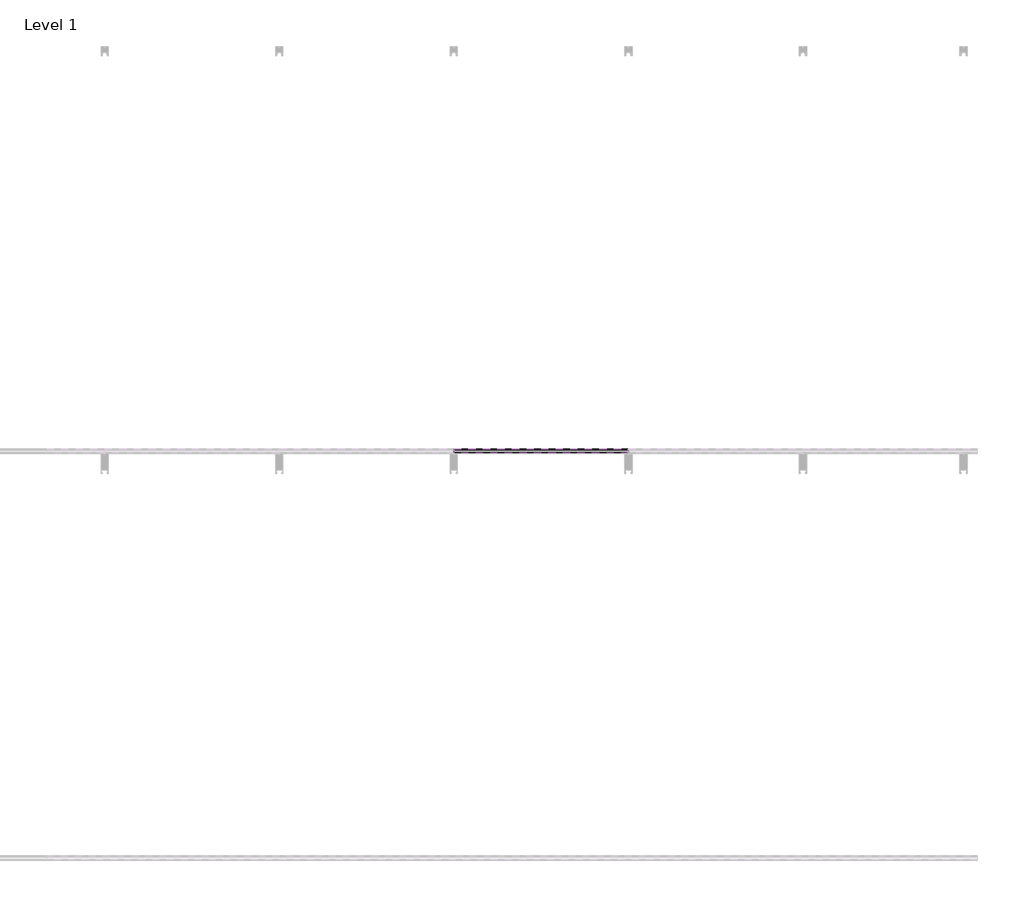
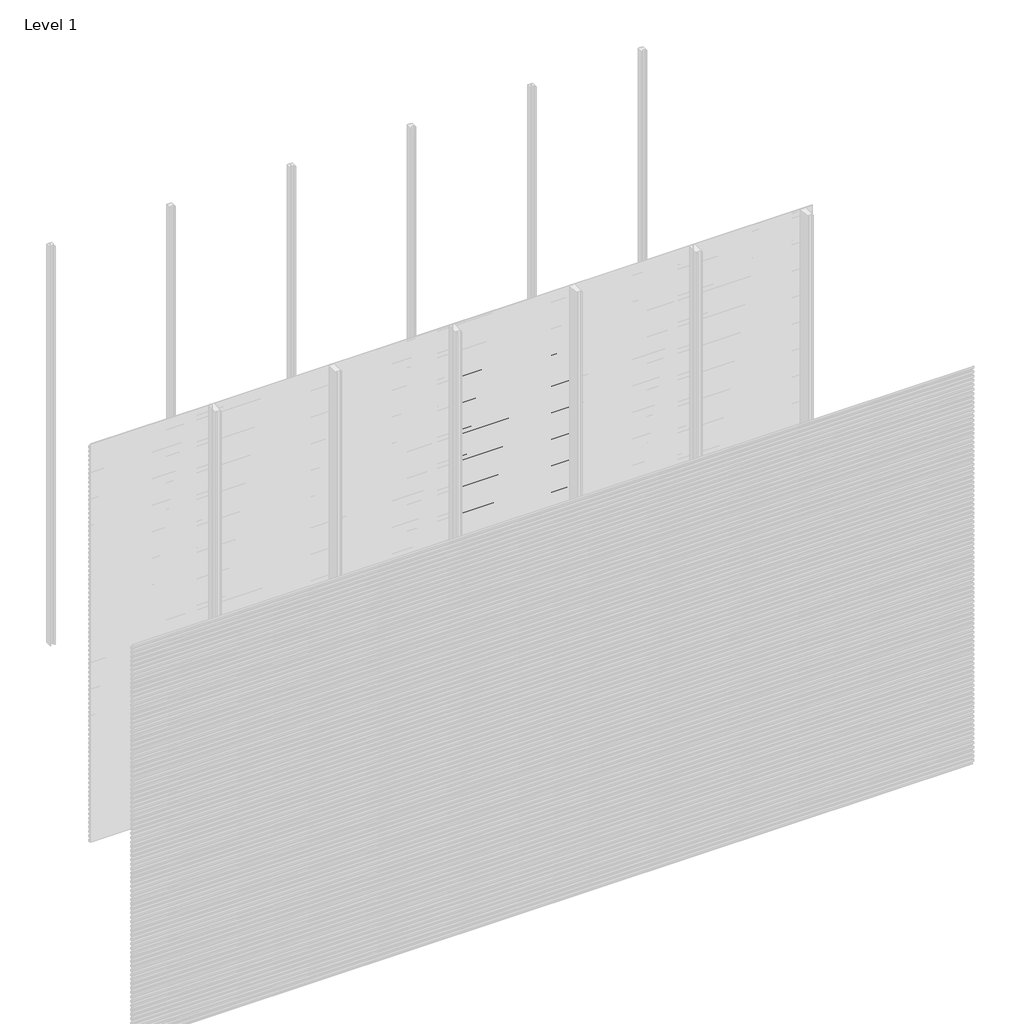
# One storey, part 66 of 96: 77 proxies.
"""IFC4 building model written with IfcOpenShell, lengths in millimetres."""

from ifc_helpers import new_model, si_unit, frame, origin, place, context, project, spatial, polyline, outline, extrude, element, save

model = new_model("IFC4")

# Units and contexts
model_context = context("Model", 3, world=origin())
ifc_project = project(units=[si_unit("LENGTHUNIT", "METRE", prefix="MILLI")], contexts=[model_context])

# Site, building, storey
site = spatial("IfcSite", under=ifc_project)
building = spatial("IfcBuilding", under=site)
storey = spatial("IfcBuildingStorey", under=building, Name="Level 1", Elevation=0.0)

# Proxies
placement = place(None, origin())
element("IfcBuildingElementProxy", 1, Name="Wall Sweeps", at=placement, inside=storey, context=model_context, shape_type="SweptSolid", body=[
    extrude(outline(polyline([(-17977.6, 2672.0655033), (-17977.6, 2657.7779188), (-17982.4114965, 2655.0), (-17982.4114965, 2656.2701706), (-17978.85, 2658.3264016), (-17978.85, 2671.3437382), (-17998.0, 2682.4000799), (-17998.0, 2697.3), (-17996.75, 2697.3), (-17996.75, 2683.1217609), (-17977.6, 2672.0655033)])), frame((3428.5714286, 0.0, 0.0), z_axis=(1.0, 0.0, 0.0), x_axis=(0.0, 1.0, 0.0)), (0.0, 0.0, 1.0), 857.1428571),
])
element("IfcBuildingElementProxy", 2, Name="Wall Sweeps", at=placement, inside=storey, context=model_context, shape_type="SweptSolid", body=[
    extrude(outline(polyline([(-17977.6, 2638.7655033), (-17977.6, 2624.4779188), (-17982.4114965, 2621.7), (-17982.4114965, 2622.9701706), (-17978.85, 2625.0264016), (-17978.85, 2638.0437382), (-17998.0, 2649.1000799), (-17998.0, 2664.0), (-17996.75, 2664.0), (-17996.75, 2649.8217609), (-17977.6, 2638.7655033)])), frame((3428.5714286, 0.0, 0.0), z_axis=(1.0, 0.0, 0.0), x_axis=(0.0, 1.0, 0.0)), (0.0, 0.0, 1.0), 857.1428571),
])
element("IfcBuildingElementProxy", 3, Name="Wall Sweeps", at=placement, inside=storey, context=model_context, shape_type="SweptSolid", body=[
    extrude(outline(polyline([(-17977.6, 2605.4655033), (-17977.6, 2591.1779188), (-17982.4114965, 2588.4), (-17982.4114965, 2589.6701706), (-17978.85, 2591.7264016), (-17978.85, 2604.7437382), (-17998.0, 2615.8000799), (-17998.0, 2630.7), (-17996.75, 2630.7), (-17996.75, 2616.5217609), (-17977.6, 2605.4655033)])), frame((3428.5714286, 0.0, 0.0), z_axis=(1.0, 0.0, 0.0), x_axis=(0.0, 1.0, 0.0)), (0.0, 0.0, 1.0), 857.1428571),
])
element("IfcBuildingElementProxy", 4, Name="Wall Sweeps", at=placement, inside=storey, context=model_context, shape_type="SweptSolid", body=[
    extrude(outline(polyline([(-17977.6, 2572.1655033), (-17977.6, 2557.8779188), (-17982.4114965, 2555.1), (-17982.4114965, 2556.3701706), (-17978.85, 2558.4264016), (-17978.85, 2571.4437382), (-17998.0, 2582.5000799), (-17998.0, 2597.4), (-17996.75, 2597.4), (-17996.75, 2583.2217609), (-17977.6, 2572.1655033)])), frame((3428.5714286, 0.0, 0.0), z_axis=(1.0, 0.0, 0.0), x_axis=(0.0, 1.0, 0.0)), (0.0, 0.0, 1.0), 857.1428571),
])
element("IfcBuildingElementProxy", 5, Name="Wall Sweeps", at=placement, inside=storey, context=model_context, shape_type="SweptSolid", body=[
    extrude(outline(polyline([(-17977.6, 2538.8655033), (-17977.6, 2524.5779188), (-17982.4114965, 2521.8), (-17982.4114965, 2523.0701706), (-17978.85, 2525.1264016), (-17978.85, 2538.1437382), (-17998.0, 2549.2000799), (-17998.0, 2564.1), (-17996.75, 2564.1), (-17996.75, 2549.9217609), (-17977.6, 2538.8655033)])), frame((3428.5714286, 0.0, 0.0), z_axis=(1.0, 0.0, 0.0), x_axis=(0.0, 1.0, 0.0)), (0.0, 0.0, 1.0), 857.1428571),
])
element("IfcBuildingElementProxy", 6, Name="Wall Sweeps", at=placement, inside=storey, context=model_context, shape_type="SweptSolid", body=[
    extrude(outline(polyline([(-17977.6, 2505.5655033), (-17977.6, 2491.2779188), (-17982.4114965, 2488.5), (-17982.4114965, 2489.7701706), (-17978.85, 2491.8264016), (-17978.85, 2504.8437382), (-17998.0, 2515.9000799), (-17998.0, 2530.8), (-17996.75, 2530.8), (-17996.75, 2516.6217609), (-17977.6, 2505.5655033)])), frame((3428.5714286, 0.0, 0.0), z_axis=(1.0, 0.0, 0.0), x_axis=(0.0, 1.0, 0.0)), (0.0, 0.0, 1.0), 857.1428571),
])
element("IfcBuildingElementProxy", 7, Name="Wall Sweeps", at=placement, inside=storey, context=model_context, shape_type="SweptSolid", body=[
    extrude(outline(polyline([(-17977.6, 2472.2655033), (-17977.6, 2457.9779188), (-17982.4114965, 2455.2), (-17982.4114965, 2456.4701706), (-17978.85, 2458.5264016), (-17978.85, 2471.5437382), (-17998.0, 2482.6000799), (-17998.0, 2497.5), (-17996.75, 2497.5), (-17996.75, 2483.3217609), (-17977.6, 2472.2655033)])), frame((3428.5714286, 0.0, 0.0), z_axis=(1.0, 0.0, 0.0), x_axis=(0.0, 1.0, 0.0)), (0.0, 0.0, 1.0), 857.1428571),
])
element("IfcBuildingElementProxy", 8, Name="Wall Sweeps", at=placement, inside=storey, context=model_context, shape_type="SweptSolid", body=[
    extrude(outline(polyline([(-17977.6, 2438.9655033), (-17977.6, 2424.6779188), (-17982.4114965, 2421.9), (-17982.4114965, 2423.1701706), (-17978.85, 2425.2264016), (-17978.85, 2438.2437382), (-17998.0, 2449.3000799), (-17998.0, 2464.2), (-17996.75, 2464.2), (-17996.75, 2450.0217609), (-17977.6, 2438.9655033)])), frame((3428.5714286, 0.0, 0.0), z_axis=(1.0, 0.0, 0.0), x_axis=(0.0, 1.0, 0.0)), (0.0, 0.0, 1.0), 857.1428571),
])
element("IfcBuildingElementProxy", 9, Name="Wall Sweeps", at=placement, inside=storey, context=model_context, shape_type="SweptSolid", body=[
    extrude(outline(polyline([(-17977.6, 2405.6655033), (-17977.6, 2391.3779188), (-17982.4114965, 2388.6), (-17982.4114965, 2389.8701706), (-17978.85, 2391.9264016), (-17978.85, 2404.9437382), (-17998.0, 2416.0000799), (-17998.0, 2430.9), (-17996.75, 2430.9), (-17996.75, 2416.7217609), (-17977.6, 2405.6655033)])), frame((3428.5714286, 0.0, 0.0), z_axis=(1.0, 0.0, 0.0), x_axis=(0.0, 1.0, 0.0)), (0.0, 0.0, 1.0), 857.1428571),
])
element("IfcBuildingElementProxy", 10, Name="Wall Sweeps", at=placement, inside=storey, context=model_context, shape_type="SweptSolid", body=[
    extrude(outline(polyline([(-17977.6, 2372.3655033), (-17977.6, 2358.0779188), (-17982.4114965, 2355.3), (-17982.4114965, 2356.5701706), (-17978.85, 2358.6264016), (-17978.85, 2371.6437382), (-17998.0, 2382.7000799), (-17998.0, 2397.6), (-17996.75, 2397.6), (-17996.75, 2383.4217609), (-17977.6, 2372.3655033)])), frame((3428.5714286, 0.0, 0.0), z_axis=(1.0, 0.0, 0.0), x_axis=(0.0, 1.0, 0.0)), (0.0, 0.0, 1.0), 857.1428571),
])
element("IfcBuildingElementProxy", 11, Name="Wall Sweeps", at=placement, inside=storey, context=model_context, shape_type="SweptSolid", body=[
    extrude(outline(polyline([(-17977.6, 2339.0655033), (-17977.6, 2324.7779188), (-17982.4114965, 2322.0), (-17982.4114965, 2323.2701706), (-17978.85, 2325.3264016), (-17978.85, 2338.3437382), (-17998.0, 2349.4000799), (-17998.0, 2364.3), (-17996.75, 2364.3), (-17996.75, 2350.1217609), (-17977.6, 2339.0655033)])), frame((3428.5714286, 0.0, 0.0), z_axis=(1.0, 0.0, 0.0), x_axis=(0.0, 1.0, 0.0)), (0.0, 0.0, 1.0), 857.1428571),
])
element("IfcBuildingElementProxy", 12, Name="Wall Sweeps", at=placement, inside=storey, context=model_context, shape_type="SweptSolid", body=[
    extrude(outline(polyline([(-17977.6, 2305.7655033), (-17977.6, 2291.4779188), (-17982.4114965, 2288.7), (-17982.4114965, 2289.9701706), (-17978.85, 2292.0264016), (-17978.85, 2305.0437382), (-17998.0, 2316.1000799), (-17998.0, 2331.0), (-17996.75, 2331.0), (-17996.75, 2316.8217609), (-17977.6, 2305.7655033)])), frame((3428.5714286, 0.0, 0.0), z_axis=(1.0, 0.0, 0.0), x_axis=(0.0, 1.0, 0.0)), (0.0, 0.0, 1.0), 857.1428571),
])
element("IfcBuildingElementProxy", 13, Name="Wall Sweeps", at=placement, inside=storey, context=model_context, shape_type="SweptSolid", body=[
    extrude(outline(polyline([(-17977.6, 2272.4655033), (-17977.6, 2258.1779188), (-17982.4114965, 2255.4), (-17982.4114965, 2256.6701706), (-17978.85, 2258.7264016), (-17978.85, 2271.7437382), (-17998.0, 2282.8000799), (-17998.0, 2297.7), (-17996.75, 2297.7), (-17996.75, 2283.5217609), (-17977.6, 2272.4655033)])), frame((3428.5714286, 0.0, 0.0), z_axis=(1.0, 0.0, 0.0), x_axis=(0.0, 1.0, 0.0)), (0.0, 0.0, 1.0), 857.1428571),
])
element("IfcBuildingElementProxy", 14, Name="Wall Sweeps", at=placement, inside=storey, context=model_context, shape_type="SweptSolid", body=[
    extrude(outline(polyline([(-17977.6, 2239.1655033), (-17977.6, 2224.8779188), (-17982.4114965, 2222.1), (-17982.4114965, 2223.3701706), (-17978.85, 2225.4264016), (-17978.85, 2238.4437382), (-17998.0, 2249.5000799), (-17998.0, 2264.4), (-17996.75, 2264.4), (-17996.75, 2250.2217609), (-17977.6, 2239.1655033)])), frame((3428.5714286, 0.0, 0.0), z_axis=(1.0, 0.0, 0.0), x_axis=(0.0, 1.0, 0.0)), (0.0, 0.0, 1.0), 857.1428571),
])
element("IfcBuildingElementProxy", 15, Name="Wall Sweeps", at=placement, inside=storey, context=model_context, shape_type="SweptSolid", body=[
    extrude(outline(polyline([(-17977.6, 2205.8655033), (-17977.6, 2191.5779188), (-17982.4114965, 2188.8), (-17982.4114965, 2190.0701706), (-17978.85, 2192.1264016), (-17978.85, 2205.1437382), (-17998.0, 2216.2000799), (-17998.0, 2231.1), (-17996.75, 2231.1), (-17996.75, 2216.9217609), (-17977.6, 2205.8655033)])), frame((3428.5714286, 0.0, 0.0), z_axis=(1.0, 0.0, 0.0), x_axis=(0.0, 1.0, 0.0)), (0.0, 0.0, 1.0), 857.1428571),
])
element("IfcBuildingElementProxy", 16, Name="Wall Sweeps", at=placement, inside=storey, context=model_context, shape_type="SweptSolid", body=[
    extrude(outline(polyline([(-17977.6, 2172.5655033), (-17977.6, 2158.2779188), (-17982.4114965, 2155.5), (-17982.4114965, 2156.7701706), (-17978.85, 2158.8264016), (-17978.85, 2171.8437382), (-17998.0, 2182.9000799), (-17998.0, 2197.8), (-17996.75, 2197.8), (-17996.75, 2183.6217609), (-17977.6, 2172.5655033)])), frame((3428.5714286, 0.0, 0.0), z_axis=(1.0, 0.0, 0.0), x_axis=(0.0, 1.0, 0.0)), (0.0, 0.0, 1.0), 857.1428571),
])
element("IfcBuildingElementProxy", 17, Name="Wall Sweeps", at=placement, inside=storey, context=model_context, shape_type="SweptSolid", body=[
    extrude(outline(polyline([(-17977.6, 2139.2655033), (-17977.6, 2124.9779188), (-17982.4114965, 2122.2), (-17982.4114965, 2123.4701706), (-17978.85, 2125.5264016), (-17978.85, 2138.5437382), (-17998.0, 2149.6000799), (-17998.0, 2164.5), (-17996.75, 2164.5), (-17996.75, 2150.3217609), (-17977.6, 2139.2655033)])), frame((3428.5714286, 0.0, 0.0), z_axis=(1.0, 0.0, 0.0), x_axis=(0.0, 1.0, 0.0)), (0.0, 0.0, 1.0), 857.1428571),
])
element("IfcBuildingElementProxy", 18, Name="Wall Sweeps", at=placement, inside=storey, context=model_context, shape_type="SweptSolid", body=[
    extrude(outline(polyline([(-17977.6, 2105.9655033), (-17977.6, 2091.6779188), (-17982.4114965, 2088.9), (-17982.4114965, 2090.1701706), (-17978.85, 2092.2264016), (-17978.85, 2105.2437382), (-17998.0, 2116.3000799), (-17998.0, 2131.2), (-17996.75, 2131.2), (-17996.75, 2117.0217609), (-17977.6, 2105.9655033)])), frame((3428.5714286, 0.0, 0.0), z_axis=(1.0, 0.0, 0.0), x_axis=(0.0, 1.0, 0.0)), (0.0, 0.0, 1.0), 857.1428571),
])
element("IfcBuildingElementProxy", 19, Name="Wall Sweeps", at=placement, inside=storey, context=model_context, shape_type="SweptSolid", body=[
    extrude(outline(polyline([(-17977.6, 2072.6655033), (-17977.6, 2058.3779188), (-17982.4114965, 2055.6), (-17982.4114965, 2056.8701706), (-17978.85, 2058.9264016), (-17978.85, 2071.9437382), (-17998.0, 2083.0000799), (-17998.0, 2097.9), (-17996.75, 2097.9), (-17996.75, 2083.7217609), (-17977.6, 2072.6655033)])), frame((3428.5714286, 0.0, 0.0), z_axis=(1.0, 0.0, 0.0), x_axis=(0.0, 1.0, 0.0)), (0.0, 0.0, 1.0), 857.1428571),
])
element("IfcBuildingElementProxy", 20, Name="Wall Sweeps", at=placement, inside=storey, context=model_context, shape_type="SweptSolid", body=[
    extrude(outline(polyline([(-17977.6, 2039.3655033), (-17977.6, 2025.0779188), (-17982.4114965, 2022.3), (-17982.4114965, 2023.5701706), (-17978.85, 2025.6264016), (-17978.85, 2038.6437382), (-17998.0, 2049.7000799), (-17998.0, 2064.6), (-17996.75, 2064.6), (-17996.75, 2050.4217609), (-17977.6, 2039.3655033)])), frame((3428.5714286, 0.0, 0.0), z_axis=(1.0, 0.0, 0.0), x_axis=(0.0, 1.0, 0.0)), (0.0, 0.0, 1.0), 857.1428571),
])
element("IfcBuildingElementProxy", 21, Name="Wall Sweeps", at=placement, inside=storey, context=model_context, shape_type="SweptSolid", body=[
    extrude(outline(polyline([(-17977.6, 2006.0655033), (-17977.6, 1991.7779188), (-17982.4114965, 1989.0), (-17982.4114965, 1990.2701706), (-17978.85, 1992.3264016), (-17978.85, 2005.3437382), (-17998.0, 2016.4000799), (-17998.0, 2031.3), (-17996.75, 2031.3), (-17996.75, 2017.1217609), (-17977.6, 2006.0655033)])), frame((3428.5714286, 0.0, 0.0), z_axis=(1.0, 0.0, 0.0), x_axis=(0.0, 1.0, 0.0)), (0.0, 0.0, 1.0), 857.1428571),
])
element("IfcBuildingElementProxy", 22, Name="Wall Sweeps", at=placement, inside=storey, context=model_context, shape_type="SweptSolid", body=[
    extrude(outline(polyline([(-17977.6, 1972.7655033), (-17977.6, 1958.4779188), (-17982.4114965, 1955.7), (-17982.4114965, 1956.9701706), (-17978.85, 1959.0264016), (-17978.85, 1972.0437382), (-17998.0, 1983.1000799), (-17998.0, 1998.0), (-17996.75, 1998.0), (-17996.75, 1983.8217609), (-17977.6, 1972.7655033)])), frame((3428.5714286, 0.0, 0.0), z_axis=(1.0, 0.0, 0.0), x_axis=(0.0, 1.0, 0.0)), (0.0, 0.0, 1.0), 857.1428571),
])
element("IfcBuildingElementProxy", 23, Name="Wall Sweeps", at=placement, inside=storey, context=model_context, shape_type="SweptSolid", body=[
    extrude(outline(polyline([(-17977.6, 1939.4655033), (-17977.6, 1925.1779188), (-17982.4114965, 1922.4), (-17982.4114965, 1923.6701706), (-17978.85, 1925.7264016), (-17978.85, 1938.7437382), (-17998.0, 1949.8000799), (-17998.0, 1964.7), (-17996.75, 1964.7), (-17996.75, 1950.5217609), (-17977.6, 1939.4655033)])), frame((3428.5714286, 0.0, 0.0), z_axis=(1.0, 0.0, 0.0), x_axis=(0.0, 1.0, 0.0)), (0.0, 0.0, 1.0), 857.1428571),
])
element("IfcBuildingElementProxy", 24, Name="Wall Sweeps", at=placement, inside=storey, context=model_context, shape_type="SweptSolid", body=[
    extrude(outline(polyline([(-17977.6, 1906.1655033), (-17977.6, 1891.8779188), (-17982.4114965, 1889.1), (-17982.4114965, 1890.3701706), (-17978.85, 1892.4264016), (-17978.85, 1905.4437382), (-17998.0, 1916.5000799), (-17998.0, 1931.4), (-17996.75, 1931.4), (-17996.75, 1917.2217609), (-17977.6, 1906.1655033)])), frame((3428.5714286, 0.0, 0.0), z_axis=(1.0, 0.0, 0.0), x_axis=(0.0, 1.0, 0.0)), (0.0, 0.0, 1.0), 857.1428571),
])
element("IfcBuildingElementProxy", 25, Name="Wall Sweeps", at=placement, inside=storey, context=model_context, shape_type="SweptSolid", body=[
    extrude(outline(polyline([(-17977.6, 1872.8655033), (-17977.6, 1858.5779188), (-17982.4114965, 1855.8), (-17982.4114965, 1857.0701706), (-17978.85, 1859.1264016), (-17978.85, 1872.1437382), (-17998.0, 1883.2000799), (-17998.0, 1898.1), (-17996.75, 1898.1), (-17996.75, 1883.9217609), (-17977.6, 1872.8655033)])), frame((3428.5714286, 0.0, 0.0), z_axis=(1.0, 0.0, 0.0), x_axis=(0.0, 1.0, 0.0)), (0.0, 0.0, 1.0), 857.1428571),
])
element("IfcBuildingElementProxy", 26, Name="Wall Sweeps", at=placement, inside=storey, context=model_context, shape_type="SweptSolid", body=[
    extrude(outline(polyline([(-17977.6, 1839.5655033), (-17977.6, 1825.2779188), (-17982.4114965, 1822.5), (-17982.4114965, 1823.7701706), (-17978.85, 1825.8264016), (-17978.85, 1838.8437382), (-17998.0, 1849.9000799), (-17998.0, 1864.8), (-17996.75, 1864.8), (-17996.75, 1850.6217609), (-17977.6, 1839.5655033)])), frame((3428.5714286, 0.0, 0.0), z_axis=(1.0, 0.0, 0.0), x_axis=(0.0, 1.0, 0.0)), (0.0, 0.0, 1.0), 857.1428571),
])
element("IfcBuildingElementProxy", 27, Name="Wall Sweeps", at=placement, inside=storey, context=model_context, shape_type="SweptSolid", body=[
    extrude(outline(polyline([(-17977.6, 1806.2655033), (-17977.6, 1791.9779188), (-17982.4114965, 1789.2), (-17982.4114965, 1790.4701706), (-17978.85, 1792.5264016), (-17978.85, 1805.5437382), (-17998.0, 1816.6000799), (-17998.0, 1831.5), (-17996.75, 1831.5), (-17996.75, 1817.3217609), (-17977.6, 1806.2655033)])), frame((3428.5714286, 0.0, 0.0), z_axis=(1.0, 0.0, 0.0), x_axis=(0.0, 1.0, 0.0)), (0.0, 0.0, 1.0), 857.1428571),
])
element("IfcBuildingElementProxy", 28, Name="Wall Sweeps", at=placement, inside=storey, context=model_context, shape_type="SweptSolid", body=[
    extrude(outline(polyline([(-17977.6, 1772.9655033), (-17977.6, 1758.6779188), (-17982.4114965, 1755.9), (-17982.4114965, 1757.1701706), (-17978.85, 1759.2264016), (-17978.85, 1772.2437382), (-17998.0, 1783.3000799), (-17998.0, 1798.2), (-17996.75, 1798.2), (-17996.75, 1784.0217609), (-17977.6, 1772.9655033)])), frame((3428.5714286, 0.0, 0.0), z_axis=(1.0, 0.0, 0.0), x_axis=(0.0, 1.0, 0.0)), (0.0, 0.0, 1.0), 857.1428571),
])
element("IfcBuildingElementProxy", 29, Name="Wall Sweeps", at=placement, inside=storey, context=model_context, shape_type="SweptSolid", body=[
    extrude(outline(polyline([(-17977.6, 1739.6655033), (-17977.6, 1725.3779188), (-17982.4114965, 1722.6), (-17982.4114965, 1723.8701706), (-17978.85, 1725.9264016), (-17978.85, 1738.9437382), (-17998.0, 1750.0000799), (-17998.0, 1764.9), (-17996.75, 1764.9), (-17996.75, 1750.7217609), (-17977.6, 1739.6655033)])), frame((3428.5714286, 0.0, 0.0), z_axis=(1.0, 0.0, 0.0), x_axis=(0.0, 1.0, 0.0)), (0.0, 0.0, 1.0), 857.1428571),
])
element("IfcBuildingElementProxy", 30, Name="Wall Sweeps", at=placement, inside=storey, context=model_context, shape_type="SweptSolid", body=[
    extrude(outline(polyline([(-17977.6, 1706.3655033), (-17977.6, 1692.0779188), (-17982.4114965, 1689.3), (-17982.4114965, 1690.5701706), (-17978.85, 1692.6264016), (-17978.85, 1705.6437382), (-17998.0, 1716.7000799), (-17998.0, 1731.6), (-17996.75, 1731.6), (-17996.75, 1717.4217609), (-17977.6, 1706.3655033)])), frame((3428.5714286, 0.0, 0.0), z_axis=(1.0, 0.0, 0.0), x_axis=(0.0, 1.0, 0.0)), (0.0, 0.0, 1.0), 857.1428571),
])
element("IfcBuildingElementProxy", 31, Name="Wall Sweeps", at=placement, inside=storey, context=model_context, shape_type="SweptSolid", body=[
    extrude(outline(polyline([(-17977.6, 1673.0655033), (-17977.6, 1658.7779188), (-17982.4114965, 1656.0), (-17982.4114965, 1657.2701706), (-17978.85, 1659.3264016), (-17978.85, 1672.3437382), (-17998.0, 1683.4000799), (-17998.0, 1698.3), (-17996.75, 1698.3), (-17996.75, 1684.1217609), (-17977.6, 1673.0655033)])), frame((3428.5714286, 0.0, 0.0), z_axis=(1.0, 0.0, 0.0), x_axis=(0.0, 1.0, 0.0)), (0.0, 0.0, 1.0), 857.1428571),
])
element("IfcBuildingElementProxy", 32, Name="Wall Sweeps", at=placement, inside=storey, context=model_context, shape_type="SweptSolid", body=[
    extrude(outline(polyline([(-17977.6, 1639.7655033), (-17977.6, 1625.4779188), (-17982.4114965, 1622.7), (-17982.4114965, 1623.9701706), (-17978.85, 1626.0264016), (-17978.85, 1639.0437382), (-17998.0, 1650.1000799), (-17998.0, 1665.0), (-17996.75, 1665.0), (-17996.75, 1650.8217609), (-17977.6, 1639.7655033)])), frame((3428.5714286, 0.0, 0.0), z_axis=(1.0, 0.0, 0.0), x_axis=(0.0, 1.0, 0.0)), (0.0, 0.0, 1.0), 857.1428571),
])
element("IfcBuildingElementProxy", 33, Name="Wall Sweeps", at=placement, inside=storey, context=model_context, shape_type="SweptSolid", body=[
    extrude(outline(polyline([(-17977.6, 1606.4655033), (-17977.6, 1592.1779188), (-17982.4114965, 1589.4), (-17982.4114965, 1590.6701706), (-17978.85, 1592.7264016), (-17978.85, 1605.7437382), (-17998.0, 1616.8000799), (-17998.0, 1631.7), (-17996.75, 1631.7), (-17996.75, 1617.5217609), (-17977.6, 1606.4655033)])), frame((3428.5714286, 0.0, 0.0), z_axis=(1.0, 0.0, 0.0), x_axis=(0.0, 1.0, 0.0)), (0.0, 0.0, 1.0), 857.1428571),
])
element("IfcBuildingElementProxy", 34, Name="Wall Sweeps", at=placement, inside=storey, context=model_context, shape_type="SweptSolid", body=[
    extrude(outline(polyline([(-17977.6, 1573.1655033), (-17977.6, 1558.8779188), (-17982.4114965, 1556.1), (-17982.4114965, 1557.3701706), (-17978.85, 1559.4264016), (-17978.85, 1572.4437382), (-17998.0, 1583.5000799), (-17998.0, 1598.4), (-17996.75, 1598.4), (-17996.75, 1584.2217609), (-17977.6, 1573.1655033)])), frame((3428.5714286, 0.0, 0.0), z_axis=(1.0, 0.0, 0.0), x_axis=(0.0, 1.0, 0.0)), (0.0, 0.0, 1.0), 857.1428571),
])
element("IfcBuildingElementProxy", 35, Name="Wall Sweeps", at=placement, inside=storey, context=model_context, shape_type="SweptSolid", body=[
    extrude(outline(polyline([(-17977.6, 1539.8655033), (-17977.6, 1525.5779188), (-17982.4114965, 1522.8), (-17982.4114965, 1524.0701706), (-17978.85, 1526.1264016), (-17978.85, 1539.1437382), (-17998.0, 1550.2000799), (-17998.0, 1565.1), (-17996.75, 1565.1), (-17996.75, 1550.9217609), (-17977.6, 1539.8655033)])), frame((3428.5714286, 0.0, 0.0), z_axis=(1.0, 0.0, 0.0), x_axis=(0.0, 1.0, 0.0)), (0.0, 0.0, 1.0), 857.1428571),
])
element("IfcBuildingElementProxy", 36, Name="Wall Sweeps", at=placement, inside=storey, context=model_context, shape_type="SweptSolid", body=[
    extrude(outline(polyline([(-17977.6, 1506.5655033), (-17977.6, 1492.2779188), (-17982.4114965, 1489.5), (-17982.4114965, 1490.7701706), (-17978.85, 1492.8264016), (-17978.85, 1505.8437382), (-17998.0, 1516.9000799), (-17998.0, 1531.8), (-17996.75, 1531.8), (-17996.75, 1517.6217609), (-17977.6, 1506.5655033)])), frame((3428.5714286, 0.0, 0.0), z_axis=(1.0, 0.0, 0.0), x_axis=(0.0, 1.0, 0.0)), (0.0, 0.0, 1.0), 857.1428571),
])
element("IfcBuildingElementProxy", 37, Name="Wall Sweeps", at=placement, inside=storey, context=model_context, shape_type="SweptSolid", body=[
    extrude(outline(polyline([(-17977.6, 1473.2655033), (-17977.6, 1458.9779188), (-17982.4114965, 1456.2), (-17982.4114965, 1457.4701706), (-17978.85, 1459.5264016), (-17978.85, 1472.5437382), (-17998.0, 1483.6000799), (-17998.0, 1498.5), (-17996.75, 1498.5), (-17996.75, 1484.3217609), (-17977.6, 1473.2655033)])), frame((3428.5714286, 0.0, 0.0), z_axis=(1.0, 0.0, 0.0), x_axis=(0.0, 1.0, 0.0)), (0.0, 0.0, 1.0), 857.1428571),
])
element("IfcBuildingElementProxy", 38, Name="Wall Sweeps", at=placement, inside=storey, context=model_context, shape_type="SweptSolid", body=[
    extrude(outline(polyline([(-17977.6, 1439.9655033), (-17977.6, 1425.6779188), (-17982.4114965, 1422.9), (-17982.4114965, 1424.1701706), (-17978.85, 1426.2264016), (-17978.85, 1439.2437382), (-17998.0, 1450.3000799), (-17998.0, 1465.2), (-17996.75, 1465.2), (-17996.75, 1451.0217609), (-17977.6, 1439.9655033)])), frame((3428.5714286, 0.0, 0.0), z_axis=(1.0, 0.0, 0.0), x_axis=(0.0, 1.0, 0.0)), (0.0, 0.0, 1.0), 857.1428571),
])
element("IfcBuildingElementProxy", 39, Name="Wall Sweeps", at=placement, inside=storey, context=model_context, shape_type="SweptSolid", body=[
    extrude(outline(polyline([(-17977.6, 1406.6655033), (-17977.6, 1392.3779188), (-17982.4114965, 1389.6), (-17982.4114965, 1390.8701706), (-17978.85, 1392.9264016), (-17978.85, 1405.9437382), (-17998.0, 1417.0000799), (-17998.0, 1431.9), (-17996.75, 1431.9), (-17996.75, 1417.7217609), (-17977.6, 1406.6655033)])), frame((3428.5714286, 0.0, 0.0), z_axis=(1.0, 0.0, 0.0), x_axis=(0.0, 1.0, 0.0)), (0.0, 0.0, 1.0), 857.1428571),
])
element("IfcBuildingElementProxy", 40, Name="Wall Sweeps", at=placement, inside=storey, context=model_context, shape_type="SweptSolid", body=[
    extrude(outline(polyline([(-17977.6, 1373.3655033), (-17977.6, 1359.0779188), (-17982.4114965, 1356.3), (-17982.4114965, 1357.5701706), (-17978.85, 1359.6264016), (-17978.85, 1372.6437382), (-17998.0, 1383.7000799), (-17998.0, 1398.6), (-17996.75, 1398.6), (-17996.75, 1384.4217609), (-17977.6, 1373.3655033)])), frame((3428.5714286, 0.0, 0.0), z_axis=(1.0, 0.0, 0.0), x_axis=(0.0, 1.0, 0.0)), (0.0, 0.0, 1.0), 857.1428571),
])
element("IfcBuildingElementProxy", 41, Name="Wall Sweeps", at=placement, inside=storey, context=model_context, shape_type="SweptSolid", body=[
    extrude(outline(polyline([(-17977.6, 1340.0655033), (-17977.6, 1325.7779188), (-17982.4114965, 1323.0), (-17982.4114965, 1324.2701706), (-17978.85, 1326.3264016), (-17978.85, 1339.3437382), (-17998.0, 1350.4000799), (-17998.0, 1365.3), (-17996.75, 1365.3), (-17996.75, 1351.1217609), (-17977.6, 1340.0655033)])), frame((3428.5714286, 0.0, 0.0), z_axis=(1.0, 0.0, 0.0), x_axis=(0.0, 1.0, 0.0)), (0.0, 0.0, 1.0), 857.1428571),
])
element("IfcBuildingElementProxy", 42, Name="Wall Sweeps", at=placement, inside=storey, context=model_context, shape_type="SweptSolid", body=[
    extrude(outline(polyline([(-17977.6, 1306.7655033), (-17977.6, 1292.4779188), (-17982.4114965, 1289.7), (-17982.4114965, 1290.9701706), (-17978.85, 1293.0264016), (-17978.85, 1306.0437382), (-17998.0, 1317.1000799), (-17998.0, 1332.0), (-17996.75, 1332.0), (-17996.75, 1317.8217609), (-17977.6, 1306.7655033)])), frame((3428.5714286, 0.0, 0.0), z_axis=(1.0, 0.0, 0.0), x_axis=(0.0, 1.0, 0.0)), (0.0, 0.0, 1.0), 857.1428571),
])
element("IfcBuildingElementProxy", 43, Name="Wall Sweeps", at=placement, inside=storey, context=model_context, shape_type="SweptSolid", body=[
    extrude(outline(polyline([(-17977.6, 1273.4655033), (-17977.6, 1259.1779188), (-17982.4114965, 1256.4), (-17982.4114965, 1257.6701706), (-17978.85, 1259.7264016), (-17978.85, 1272.7437382), (-17998.0, 1283.8000799), (-17998.0, 1298.7), (-17996.75, 1298.7), (-17996.75, 1284.5217609), (-17977.6, 1273.4655033)])), frame((3428.5714286, 0.0, 0.0), z_axis=(1.0, 0.0, 0.0), x_axis=(0.0, 1.0, 0.0)), (0.0, 0.0, 1.0), 857.1428571),
])
element("IfcBuildingElementProxy", 44, Name="Wall Sweeps", at=placement, inside=storey, context=model_context, shape_type="SweptSolid", body=[
    extrude(outline(polyline([(-17977.6, 1240.1655033), (-17977.6, 1225.8779188), (-17982.4114965, 1223.1), (-17982.4114965, 1224.3701706), (-17978.85, 1226.4264016), (-17978.85, 1239.4437382), (-17998.0, 1250.5000799), (-17998.0, 1265.4), (-17996.75, 1265.4), (-17996.75, 1251.2217609), (-17977.6, 1240.1655033)])), frame((3428.5714286, 0.0, 0.0), z_axis=(1.0, 0.0, 0.0), x_axis=(0.0, 1.0, 0.0)), (0.0, 0.0, 1.0), 857.1428571),
])
element("IfcBuildingElementProxy", 45, Name="Wall Sweeps", at=placement, inside=storey, context=model_context, shape_type="SweptSolid", body=[
    extrude(outline(polyline([(-17977.6, 1206.8655033), (-17977.6, 1192.5779188), (-17982.4114965, 1189.8), (-17982.4114965, 1191.0701706), (-17978.85, 1193.1264016), (-17978.85, 1206.1437382), (-17998.0, 1217.2000799), (-17998.0, 1232.1), (-17996.75, 1232.1), (-17996.75, 1217.9217609), (-17977.6, 1206.8655033)])), frame((3428.5714286, 0.0, 0.0), z_axis=(1.0, 0.0, 0.0), x_axis=(0.0, 1.0, 0.0)), (0.0, 0.0, 1.0), 857.1428571),
])
element("IfcBuildingElementProxy", 46, Name="Wall Sweeps", at=placement, inside=storey, context=model_context, shape_type="SweptSolid", body=[
    extrude(outline(polyline([(-17977.6, 1173.5655033), (-17977.6, 1159.2779188), (-17982.4114965, 1156.5), (-17982.4114965, 1157.7701706), (-17978.85, 1159.8264016), (-17978.85, 1172.8437382), (-17998.0, 1183.9000799), (-17998.0, 1198.8), (-17996.75, 1198.8), (-17996.75, 1184.6217609), (-17977.6, 1173.5655033)])), frame((3428.5714286, 0.0, 0.0), z_axis=(1.0, 0.0, 0.0), x_axis=(0.0, 1.0, 0.0)), (0.0, 0.0, 1.0), 857.1428571),
])
element("IfcBuildingElementProxy", 47, Name="Wall Sweeps", at=placement, inside=storey, context=model_context, shape_type="SweptSolid", body=[
    extrude(outline(polyline([(-17977.6, 1140.2655033), (-17977.6, 1125.9779188), (-17982.4114965, 1123.2), (-17982.4114965, 1124.4701706), (-17978.85, 1126.5264016), (-17978.85, 1139.5437382), (-17998.0, 1150.6000799), (-17998.0, 1165.5), (-17996.75, 1165.5), (-17996.75, 1151.3217609), (-17977.6, 1140.2655033)])), frame((3428.5714286, 0.0, 0.0), z_axis=(1.0, 0.0, 0.0), x_axis=(0.0, 1.0, 0.0)), (0.0, 0.0, 1.0), 857.1428571),
])
element("IfcBuildingElementProxy", 48, Name="Wall Sweeps", at=placement, inside=storey, context=model_context, shape_type="SweptSolid", body=[
    extrude(outline(polyline([(-17977.6, 1106.9655033), (-17977.6, 1092.6779188), (-17982.4114965, 1089.9), (-17982.4114965, 1091.1701706), (-17978.85, 1093.2264016), (-17978.85, 1106.2437382), (-17998.0, 1117.3000799), (-17998.0, 1132.2), (-17996.75, 1132.2), (-17996.75, 1118.0217609), (-17977.6, 1106.9655033)])), frame((3428.5714286, 0.0, 0.0), z_axis=(1.0, 0.0, 0.0), x_axis=(0.0, 1.0, 0.0)), (0.0, 0.0, 1.0), 857.1428571),
])
element("IfcBuildingElementProxy", 49, Name="Wall Sweeps", at=placement, inside=storey, context=model_context, shape_type="SweptSolid", body=[
    extrude(outline(polyline([(-17977.6, 1073.6655033), (-17977.6, 1059.3779188), (-17982.4114965, 1056.6), (-17982.4114965, 1057.8701706), (-17978.85, 1059.9264016), (-17978.85, 1072.9437382), (-17998.0, 1084.0000799), (-17998.0, 1098.9), (-17996.75, 1098.9), (-17996.75, 1084.7217609), (-17977.6, 1073.6655033)])), frame((3428.5714286, 0.0, 0.0), z_axis=(1.0, 0.0, 0.0), x_axis=(0.0, 1.0, 0.0)), (0.0, 0.0, 1.0), 857.1428571),
])
element("IfcBuildingElementProxy", 50, Name="Wall Sweeps", at=placement, inside=storey, context=model_context, shape_type="SweptSolid", body=[
    extrude(outline(polyline([(-17977.6, 1040.3655033), (-17977.6, 1026.0779188), (-17982.4114965, 1023.3), (-17982.4114965, 1024.5701706), (-17978.85, 1026.6264016), (-17978.85, 1039.6437382), (-17998.0, 1050.7000799), (-17998.0, 1065.6), (-17996.75, 1065.6), (-17996.75, 1051.4217609), (-17977.6, 1040.3655033)])), frame((3428.5714286, 0.0, 0.0), z_axis=(1.0, 0.0, 0.0), x_axis=(0.0, 1.0, 0.0)), (0.0, 0.0, 1.0), 857.1428571),
])
element("IfcBuildingElementProxy", 51, Name="Wall Sweeps", at=placement, inside=storey, context=model_context, shape_type="SweptSolid", body=[
    extrude(outline(polyline([(-17977.6, 1007.0655033), (-17977.6, 992.7779188), (-17982.4114965, 990.0), (-17982.4114965, 991.2701706), (-17978.85, 993.3264016), (-17978.85, 1006.3437382), (-17998.0, 1017.4000799), (-17998.0, 1032.3), (-17996.75, 1032.3), (-17996.75, 1018.1217609), (-17977.6, 1007.0655033)])), frame((3428.5714286, 0.0, 0.0), z_axis=(1.0, 0.0, 0.0), x_axis=(0.0, 1.0, 0.0)), (0.0, 0.0, 1.0), 857.1428571),
])
element("IfcBuildingElementProxy", 52, Name="Wall Sweeps", at=placement, inside=storey, context=model_context, shape_type="SweptSolid", body=[
    extrude(outline(polyline([(-17977.6, 973.7655033), (-17977.6, 959.4779188), (-17982.4114965, 956.7), (-17982.4114965, 957.9701706), (-17978.85, 960.0264016), (-17978.85, 973.0437382), (-17998.0, 984.1000799), (-17998.0, 999.0), (-17996.75, 999.0), (-17996.75, 984.8217609), (-17977.6, 973.7655033)])), frame((3428.5714286, 0.0, 0.0), z_axis=(1.0, 0.0, 0.0), x_axis=(0.0, 1.0, 0.0)), (0.0, 0.0, 1.0), 857.1428571),
])
element("IfcBuildingElementProxy", 53, Name="Wall Sweeps", at=placement, inside=storey, context=model_context, shape_type="SweptSolid", body=[
    extrude(outline(polyline([(-17977.6, 940.4655033), (-17977.6, 926.1779188), (-17982.4114965, 923.4), (-17982.4114965, 924.6701706), (-17978.85, 926.7264016), (-17978.85, 939.7437382), (-17998.0, 950.8000799), (-17998.0, 965.7), (-17996.75, 965.7), (-17996.75, 951.5217609), (-17977.6, 940.4655033)])), frame((3428.5714286, 0.0, 0.0), z_axis=(1.0, 0.0, 0.0), x_axis=(0.0, 1.0, 0.0)), (0.0, 0.0, 1.0), 857.1428571),
])
element("IfcBuildingElementProxy", 54, Name="Wall Sweeps", at=placement, inside=storey, context=model_context, shape_type="SweptSolid", body=[
    extrude(outline(polyline([(-17977.6, 907.1655033), (-17977.6, 892.8779188), (-17982.4114965, 890.1), (-17982.4114965, 891.3701706), (-17978.85, 893.4264016), (-17978.85, 906.4437382), (-17998.0, 917.5000799), (-17998.0, 932.4), (-17996.75, 932.4), (-17996.75, 918.2217609), (-17977.6, 907.1655033)])), frame((3428.5714286, 0.0, 0.0), z_axis=(1.0, 0.0, 0.0), x_axis=(0.0, 1.0, 0.0)), (0.0, 0.0, 1.0), 857.1428571),
])
element("IfcBuildingElementProxy", 55, Name="Wall Sweeps", at=placement, inside=storey, context=model_context, shape_type="SweptSolid", body=[
    extrude(outline(polyline([(-17977.6, 873.8655033), (-17977.6, 859.5779188), (-17982.4114965, 856.8), (-17982.4114965, 858.0701706), (-17978.85, 860.1264016), (-17978.85, 873.1437382), (-17998.0, 884.2000799), (-17998.0, 899.1), (-17996.75, 899.1), (-17996.75, 884.9217609), (-17977.6, 873.8655033)])), frame((3428.5714286, 0.0, 0.0), z_axis=(1.0, 0.0, 0.0), x_axis=(0.0, 1.0, 0.0)), (0.0, 0.0, 1.0), 857.1428571),
])
element("IfcBuildingElementProxy", 56, Name="Wall Sweeps", at=placement, inside=storey, context=model_context, shape_type="SweptSolid", body=[
    extrude(outline(polyline([(-17977.6, 840.5655033), (-17977.6, 826.2779188), (-17982.4114965, 823.5), (-17982.4114965, 824.7701706), (-17978.85, 826.8264016), (-17978.85, 839.8437382), (-17998.0, 850.9000799), (-17998.0, 865.8), (-17996.75, 865.8), (-17996.75, 851.6217609), (-17977.6, 840.5655033)])), frame((3428.5714286, 0.0, 0.0), z_axis=(1.0, 0.0, 0.0), x_axis=(0.0, 1.0, 0.0)), (0.0, 0.0, 1.0), 857.1428571),
])
element("IfcBuildingElementProxy", 57, Name="Wall Sweeps", at=placement, inside=storey, context=model_context, shape_type="SweptSolid", body=[
    extrude(outline(polyline([(-17977.6, 807.2655033), (-17977.6, 792.9779188), (-17982.4114965, 790.2), (-17982.4114965, 791.4701706), (-17978.85, 793.5264016), (-17978.85, 806.5437382), (-17998.0, 817.6000799), (-17998.0, 832.5), (-17996.75, 832.5), (-17996.75, 818.3217609), (-17977.6, 807.2655033)])), frame((3428.5714286, 0.0, 0.0), z_axis=(1.0, 0.0, 0.0), x_axis=(0.0, 1.0, 0.0)), (0.0, 0.0, 1.0), 857.1428571),
])
element("IfcBuildingElementProxy", 58, Name="Wall Sweeps", at=placement, inside=storey, context=model_context, shape_type="SweptSolid", body=[
    extrude(outline(polyline([(-17977.6, 773.9655033), (-17977.6, 759.6779188), (-17982.4114965, 756.9), (-17982.4114965, 758.1701706), (-17978.85, 760.2264016), (-17978.85, 773.2437382), (-17998.0, 784.3000799), (-17998.0, 799.2), (-17996.75, 799.2), (-17996.75, 785.0217609), (-17977.6, 773.9655033)])), frame((3428.5714286, 0.0, 0.0), z_axis=(1.0, 0.0, 0.0), x_axis=(0.0, 1.0, 0.0)), (0.0, 0.0, 1.0), 857.1428571),
])
element("IfcBuildingElementProxy", 59, Name="Wall Sweeps", at=placement, inside=storey, context=model_context, shape_type="SweptSolid", body=[
    extrude(outline(polyline([(-17977.6, 740.6655033), (-17977.6, 726.3779188), (-17982.4114965, 723.6), (-17982.4114965, 724.8701706), (-17978.85, 726.9264016), (-17978.85, 739.9437382), (-17998.0, 751.0000799), (-17998.0, 765.9), (-17996.75, 765.9), (-17996.75, 751.7217609), (-17977.6, 740.6655033)])), frame((3428.5714286, 0.0, 0.0), z_axis=(1.0, 0.0, 0.0), x_axis=(0.0, 1.0, 0.0)), (0.0, 0.0, 1.0), 857.1428571),
])
element("IfcBuildingElementProxy", 60, Name="Wall Sweeps", at=placement, inside=storey, context=model_context, shape_type="SweptSolid", body=[
    extrude(outline(polyline([(-17977.6, 707.3655033), (-17977.6, 693.0779188), (-17982.4114965, 690.3), (-17982.4114965, 691.5701706), (-17978.85, 693.6264016), (-17978.85, 706.6437382), (-17998.0, 717.7000799), (-17998.0, 732.6), (-17996.75, 732.6), (-17996.75, 718.4217609), (-17977.6, 707.3655033)])), frame((3428.5714286, 0.0, 0.0), z_axis=(1.0, 0.0, 0.0), x_axis=(0.0, 1.0, 0.0)), (0.0, 0.0, 1.0), 857.1428571),
])
element("IfcBuildingElementProxy", 61, Name="Wall Sweeps", at=placement, inside=storey, context=model_context, shape_type="SweptSolid", body=[
    extrude(outline(polyline([(-17977.6, 674.0655033), (-17977.6, 659.7779188), (-17982.4114965, 657.0), (-17982.4114965, 658.2701706), (-17978.85, 660.3264016), (-17978.85, 673.3437382), (-17998.0, 684.4000799), (-17998.0, 699.3), (-17996.75, 699.3), (-17996.75, 685.1217609), (-17977.6, 674.0655033)])), frame((3428.5714286, 0.0, 0.0), z_axis=(1.0, 0.0, 0.0), x_axis=(0.0, 1.0, 0.0)), (0.0, 0.0, 1.0), 857.1428571),
])
element("IfcBuildingElementProxy", 62, Name="Wall Sweeps", at=placement, inside=storey, context=model_context, shape_type="SweptSolid", body=[
    extrude(outline(polyline([(-17977.6, 640.7655033), (-17977.6, 626.4779188), (-17982.4114965, 623.7), (-17982.4114965, 624.9701706), (-17978.85, 627.0264016), (-17978.85, 640.0437382), (-17998.0, 651.1000799), (-17998.0, 666.0), (-17996.75, 666.0), (-17996.75, 651.8217609), (-17977.6, 640.7655033)])), frame((3428.5714286, 0.0, 0.0), z_axis=(1.0, 0.0, 0.0), x_axis=(0.0, 1.0, 0.0)), (0.0, 0.0, 1.0), 857.1428571),
])
element("IfcBuildingElementProxy", 63, Name="Wall Sweeps", at=placement, inside=storey, context=model_context, shape_type="SweptSolid", body=[
    extrude(outline(polyline([(-17977.6, 607.4655033), (-17977.6, 593.1779188), (-17982.4114965, 590.4), (-17982.4114965, 591.6701706), (-17978.85, 593.7264016), (-17978.85, 606.7437382), (-17998.0, 617.8000799), (-17998.0, 632.7), (-17996.75, 632.7), (-17996.75, 618.5217609), (-17977.6, 607.4655033)])), frame((3428.5714286, 0.0, 0.0), z_axis=(1.0, 0.0, 0.0), x_axis=(0.0, 1.0, 0.0)), (0.0, 0.0, 1.0), 857.1428571),
])
element("IfcBuildingElementProxy", 64, Name="Wall Sweeps", at=placement, inside=storey, context=model_context, shape_type="SweptSolid", body=[
    extrude(outline(polyline([(-17977.6, 574.1655033), (-17977.6, 559.8779188), (-17982.4114965, 557.1), (-17982.4114965, 558.3701706), (-17978.85, 560.4264016), (-17978.85, 573.4437382), (-17998.0, 584.5000799), (-17998.0, 599.4), (-17996.75, 599.4), (-17996.75, 585.2217609), (-17977.6, 574.1655033)])), frame((3428.5714286, 0.0, 0.0), z_axis=(1.0, 0.0, 0.0), x_axis=(0.0, 1.0, 0.0)), (0.0, 0.0, 1.0), 857.1428571),
])
element("IfcBuildingElementProxy", 65, Name="Wall Sweeps", at=placement, inside=storey, context=model_context, shape_type="SweptSolid", body=[
    extrude(outline(polyline([(-17977.6, 540.8655033), (-17977.6, 526.5779188), (-17982.4114965, 523.8), (-17982.4114965, 525.0701706), (-17978.85, 527.1264016), (-17978.85, 540.1437382), (-17998.0, 551.2000799), (-17998.0, 566.1), (-17996.75, 566.1), (-17996.75, 551.9217609), (-17977.6, 540.8655033)])), frame((3428.5714286, 0.0, 0.0), z_axis=(1.0, 0.0, 0.0), x_axis=(0.0, 1.0, 0.0)), (0.0, 0.0, 1.0), 857.1428571),
])
element("IfcBuildingElementProxy", 66, Name="Wall Sweeps", at=placement, inside=storey, context=model_context, shape_type="SweptSolid", body=[
    extrude(outline(polyline([(-17977.6, 507.5655033), (-17977.6, 493.2779188), (-17982.4114965, 490.5), (-17982.4114965, 491.7701706), (-17978.85, 493.8264016), (-17978.85, 506.8437382), (-17998.0, 517.9000799), (-17998.0, 532.8), (-17996.75, 532.8), (-17996.75, 518.6217609), (-17977.6, 507.5655033)])), frame((3428.5714286, 0.0, 0.0), z_axis=(1.0, 0.0, 0.0), x_axis=(0.0, 1.0, 0.0)), (0.0, 0.0, 1.0), 857.1428571),
])
element("IfcBuildingElementProxy", 67, Name="Wall Sweeps", at=placement, inside=storey, context=model_context, shape_type="SweptSolid", body=[
    extrude(outline(polyline([(-17977.6, 474.2655033), (-17977.6, 459.9779188), (-17982.4114965, 457.2), (-17982.4114965, 458.4701706), (-17978.85, 460.5264016), (-17978.85, 473.5437382), (-17998.0, 484.6000799), (-17998.0, 499.5), (-17996.75, 499.5), (-17996.75, 485.3217609), (-17977.6, 474.2655033)])), frame((3428.5714286, 0.0, 0.0), z_axis=(1.0, 0.0, 0.0), x_axis=(0.0, 1.0, 0.0)), (0.0, 0.0, 1.0), 857.1428571),
])
element("IfcBuildingElementProxy", 68, Name="Wall Sweeps", at=placement, inside=storey, context=model_context, shape_type="SweptSolid", body=[
    extrude(outline(polyline([(-17977.6, 440.9655033), (-17977.6, 426.6779188), (-17982.4114965, 423.9), (-17982.4114965, 425.1701706), (-17978.85, 427.2264016), (-17978.85, 440.2437382), (-17998.0, 451.3000799), (-17998.0, 466.2), (-17996.75, 466.2), (-17996.75, 452.0217609), (-17977.6, 440.9655033)])), frame((3428.5714286, 0.0, 0.0), z_axis=(1.0, 0.0, 0.0), x_axis=(0.0, 1.0, 0.0)), (0.0, 0.0, 1.0), 857.1428571),
])
element("IfcBuildingElementProxy", 69, Name="Wall Sweeps", at=placement, inside=storey, context=model_context, shape_type="SweptSolid", body=[
    extrude(outline(polyline([(-17977.6, 407.6655033), (-17977.6, 393.3779188), (-17982.4114965, 390.6), (-17982.4114965, 391.8701706), (-17978.85, 393.9264016), (-17978.85, 406.9437382), (-17998.0, 418.0000799), (-17998.0, 432.9), (-17996.75, 432.9), (-17996.75, 418.7217609), (-17977.6, 407.6655033)])), frame((3428.5714286, 0.0, 0.0), z_axis=(1.0, 0.0, 0.0), x_axis=(0.0, 1.0, 0.0)), (0.0, 0.0, 1.0), 857.1428571),
])
element("IfcBuildingElementProxy", 70, Name="Wall Sweeps", at=placement, inside=storey, context=model_context, shape_type="SweptSolid", body=[
    extrude(outline(polyline([(-17977.6, 374.3655033), (-17977.6, 360.0779188), (-17982.4114965, 357.3), (-17982.4114965, 358.5701706), (-17978.85, 360.6264016), (-17978.85, 373.6437382), (-17998.0, 384.7000799), (-17998.0, 399.6), (-17996.75, 399.6), (-17996.75, 385.4217609), (-17977.6, 374.3655033)])), frame((3428.5714286, 0.0, 0.0), z_axis=(1.0, 0.0, 0.0), x_axis=(0.0, 1.0, 0.0)), (0.0, 0.0, 1.0), 857.1428571),
])
element("IfcBuildingElementProxy", 71, Name="Wall Sweeps", at=placement, inside=storey, context=model_context, shape_type="SweptSolid", body=[
    extrude(outline(polyline([(-17977.6, 341.0655033), (-17977.6, 326.7779188), (-17982.4114965, 324.0), (-17982.4114965, 325.2701706), (-17978.85, 327.3264016), (-17978.85, 340.3437382), (-17998.0, 351.4000799), (-17998.0, 366.3), (-17996.75, 366.3), (-17996.75, 352.1217609), (-17977.6, 341.0655033)])), frame((3428.5714286, 0.0, 0.0), z_axis=(1.0, 0.0, 0.0), x_axis=(0.0, 1.0, 0.0)), (0.0, 0.0, 1.0), 857.1428571),
])
element("IfcBuildingElementProxy", 72, Name="Wall Sweeps", at=placement, inside=storey, context=model_context, shape_type="SweptSolid", body=[
    extrude(outline(polyline([(-17977.6, 307.7655033), (-17977.6, 293.4779188), (-17982.4114965, 290.7), (-17982.4114965, 291.9701706), (-17978.85, 294.0264016), (-17978.85, 307.0437382), (-17998.0, 318.1000799), (-17998.0, 333.0), (-17996.75, 333.0), (-17996.75, 318.8217609), (-17977.6, 307.7655033)])), frame((3428.5714286, 0.0, 0.0), z_axis=(1.0, 0.0, 0.0), x_axis=(0.0, 1.0, 0.0)), (0.0, 0.0, 1.0), 857.1428571),
])
element("IfcBuildingElementProxy", 73, Name="Wall Sweeps", at=placement, inside=storey, context=model_context, shape_type="SweptSolid", body=[
    extrude(outline(polyline([(-17977.6, 274.4655033), (-17977.6, 260.1779188), (-17982.4114965, 257.4), (-17982.4114965, 258.6701706), (-17978.85, 260.7264016), (-17978.85, 273.7437382), (-17998.0, 284.8000799), (-17998.0, 299.7), (-17996.75, 299.7), (-17996.75, 285.5217609), (-17977.6, 274.4655033)])), frame((3428.5714286, 0.0, 0.0), z_axis=(1.0, 0.0, 0.0), x_axis=(0.0, 1.0, 0.0)), (0.0, 0.0, 1.0), 857.1428571),
])
element("IfcBuildingElementProxy", 74, Name="Wall Sweeps", at=placement, inside=storey, context=model_context, shape_type="SweptSolid", body=[
    extrude(outline(polyline([(-17977.6, 241.1655033), (-17977.6, 226.8779188), (-17982.4114965, 224.1), (-17982.4114965, 225.3701706), (-17978.85, 227.4264016), (-17978.85, 240.4437382), (-17998.0, 251.5000799), (-17998.0, 266.4), (-17996.75, 266.4), (-17996.75, 252.2217609), (-17977.6, 241.1655033)])), frame((3428.5714286, 0.0, 0.0), z_axis=(1.0, 0.0, 0.0), x_axis=(0.0, 1.0, 0.0)), (0.0, 0.0, 1.0), 857.1428571),
])
element("IfcBuildingElementProxy", 75, Name="Wall Sweeps", at=placement, inside=storey, context=model_context, shape_type="SweptSolid", body=[
    extrude(outline(polyline([(-17977.6, 207.8655033), (-17977.6, 193.5779188), (-17982.4114965, 190.8), (-17982.4114965, 192.0701706), (-17978.85, 194.1264016), (-17978.85, 207.1437382), (-17998.0, 218.2000799), (-17998.0, 233.1), (-17996.75, 233.1), (-17996.75, 218.9217609), (-17977.6, 207.8655033)])), frame((3428.5714286, 0.0, 0.0), z_axis=(1.0, 0.0, 0.0), x_axis=(0.0, 1.0, 0.0)), (0.0, 0.0, 1.0), 857.1428571),
])
element("IfcBuildingElementProxy", 76, Name="Wall Sweeps", at=placement, inside=storey, context=model_context, shape_type="SweptSolid", body=[
    extrude(outline(polyline([(-17977.6, 174.5655033), (-17977.6, 160.2779188), (-17982.4114965, 157.5), (-17982.4114965, 158.7701706), (-17978.85, 160.8264016), (-17978.85, 173.8437382), (-17998.0, 184.9000799), (-17998.0, 199.8), (-17996.75, 199.8), (-17996.75, 185.6217609), (-17977.6, 174.5655033)])), frame((3428.5714286, 0.0, 0.0), z_axis=(1.0, 0.0, 0.0), x_axis=(0.0, 1.0, 0.0)), (0.0, 0.0, 1.0), 857.1428571),
])
element("IfcBuildingElementProxy", 77, Name="Wall Sweeps", at=placement, inside=storey, context=model_context, shape_type="SweptSolid", body=[
    extrude(outline(polyline([(-17977.6, 141.2655033), (-17977.6, 126.9779188), (-17982.4114965, 124.2), (-17982.4114965, 125.4701706), (-17978.85, 127.5264016), (-17978.85, 140.5437382), (-17998.0, 151.6000799), (-17998.0, 166.5), (-17996.75, 166.5), (-17996.75, 152.3217609), (-17977.6, 141.2655033)])), frame((3428.5714286, 0.0, 0.0), z_axis=(1.0, 0.0, 0.0), x_axis=(0.0, 1.0, 0.0)), (0.0, 0.0, 1.0), 857.1428571),
])

save(model, "model.ifc")
